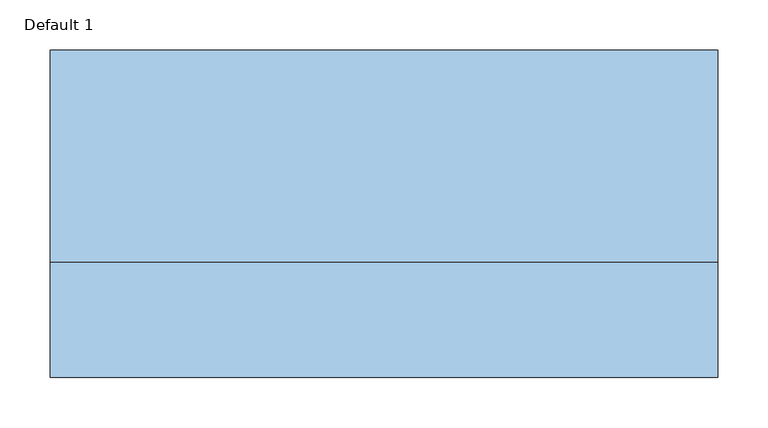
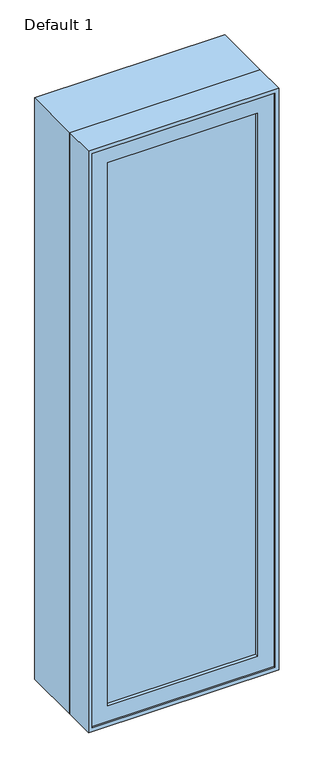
"""IFC4 building model written with IfcOpenShell, lengths in millimetres: window geometry, Planitar-Casement-Single_Left : Default 1."""

from ifc_helpers import new_model, si_unit, frame, origin, place, context, project, spatial, polyline, outline, extrude, faceted_brep, source, transform, mapped, element, save


def default_1_7f2328a8(model_context):
    return source(origin(), model_context, "Body", "SolidModel", [
        extrude(outline(polyline([(260.35, -152.4), (-260.35, -152.4), (-260.35, -146.05), (260.35, -146.05), (260.35, -152.4)])), frame((0.0, 0.0, 984.25), z_axis=(0.0, 0.0, 1.0), x_axis=(1.0, 0.0, 0.0)), (0.0, 0.0, 1.0), 1993.9),
        extrude(outline(polyline([(-260.35, -133.35), (260.35, -133.35), (260.35, -139.7), (-260.35, -139.7), (-260.35, -133.35)])), frame((0.0, 0.0, 984.25), z_axis=(0.0, 0.0, 1.0), x_axis=(1.0, 0.0, 0.0)), (0.0, 0.0, 1.0), 1993.9),
        extrude(outline(polyline([(3035.3, 317.5), (3035.3, -317.5), (927.1, -317.5), (927.1, 317.5), (3035.3, 317.5)]), holes=[polyline([(2978.15, -260.35), (2978.15, 260.35), (984.25, 260.35), (984.25, -260.35), (2978.15, -260.35)])]), frame((0.0, -165.1, 0.0), z_axis=(0.0, 1.0, 0.0), x_axis=(0.0, 0.0, 1.0)), (0.0, 0.0, 1.0), 44.45),
        extrude(outline(polyline([(3048.0, -330.2), (914.4, -330.2), (914.4, 330.2), (3048.0, 330.2), (3048.0, -330.2)]), holes=[polyline([(3028.95, 311.15), (933.45, 311.15), (933.45, -311.15), (3028.95, -311.15), (3028.95, 311.15)])]), frame((0.0, -57.15, 0.0), z_axis=(0.0, 1.0, 0.0), x_axis=(0.0, 0.0, 1.0)), (0.0, 0.0, 1.0), 209.55),
        faceted_brep([(298.45, -120.65, 3016.25), (-298.45, -120.65, 3016.25), (-298.45, -57.15, 3016.25), (298.45, -57.15, 3016.25), (317.5, -171.45, 3035.3), (-317.5, -171.45, 3035.3), (-317.5, -120.65, 3035.3), (317.5, -120.65, 3035.3), (330.2, -57.15, 3048.0), (-330.2, -57.15, 3048.0), (-330.2, -171.45, 3048.0), (330.2, -171.45, 3048.0), (-298.45, -120.65, 946.15), (-298.45, -57.15, 946.15), (-317.5, -171.45, 927.1), (-317.5, -120.65, 927.1), (-330.2, -57.15, 914.4), (-330.2, -171.45, 914.4), (298.45, -120.65, 946.15), (298.45, -57.15, 946.15), (317.5, -171.45, 927.1), (317.5, -120.65, 927.1), (330.2, -57.15, 914.4), (330.2, -171.45, 914.4)], [[[0, 1, 2, 3]], [[4, 5, 6, 7]], [[8, 9, 10, 11]], [[1, 12, 13, 2]], [[5, 14, 15, 6]], [[9, 16, 17, 10]], [[12, 18, 19, 13]], [[14, 20, 21, 15]], [[16, 22, 23, 17]], [[9, 8, 22, 16], [3, 2, 13, 19]], [[18, 0, 3, 19]], [[7, 6, 15, 21], [1, 0, 18, 12]], [[20, 4, 7, 21]], [[22, 8, 11, 23]], [[11, 10, 17, 23], [5, 4, 20, 14]]]),
    ])


if __name__ == "__main__":
    model = new_model("IFC4")
    model_context = context("Model", 3, world=origin())
    ifc_project = project(units=[si_unit("LENGTHUNIT", "METRE", prefix="MILLI")], contexts=[model_context])
    site = spatial("IfcSite", under=ifc_project)
    building = spatial("IfcBuilding", under=site)
    placement = place(None, origin())
    default_1_shape = default_1_7f2328a8(model_context)
    element("IfcWindow", 1, ObjectType="Planitar-Casement-Single_Left : Default 1", at=placement, inside=building, context=model_context, shape_type="MappedRepresentation", body=[
        mapped(default_1_shape, transform((0.0, 0.0, 0.0), x_axis=(1.0, 0.0, 0.0), y_axis=(0.0, 1.0, 0.0), z_axis=(0.0, 0.0, 1.0))),
    ])
    save(model, "model.ifc")
